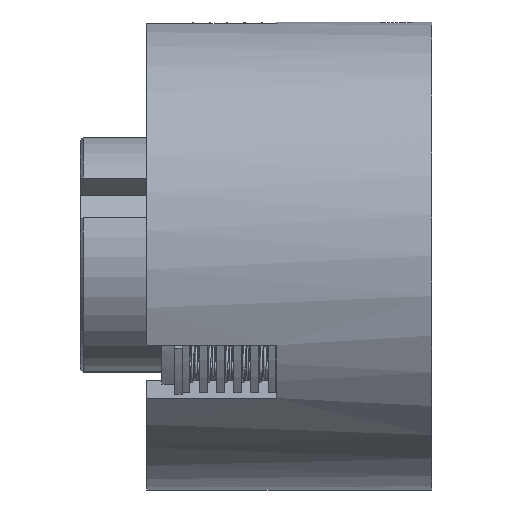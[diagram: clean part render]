
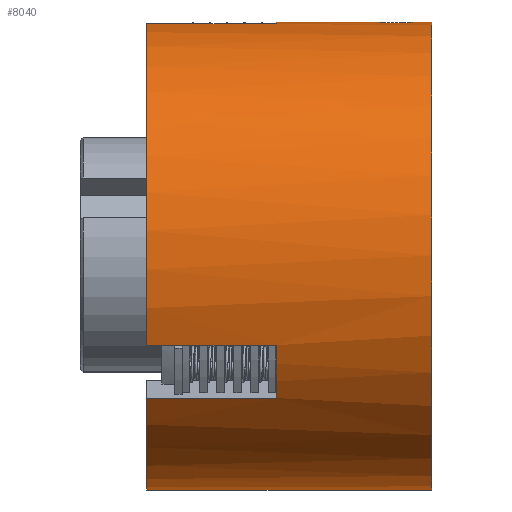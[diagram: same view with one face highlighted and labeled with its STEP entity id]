
A CAD part, top view. The second image highlights one B-rep face of the part: STEP entity #8040.
In plain terms, the highlighted cylindrical face has radius 46 mm (diameter 92 mm), a full revolution.
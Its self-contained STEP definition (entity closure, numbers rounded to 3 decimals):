
#110=B_SPLINE_CURVE_WITH_KNOTS('',3,(#17657,#17658,#17659,#17660,#17661,
#17662,#17663,#17664,#17665,#17666,#17667,#17668,#17669,#17670,#17671,#17672,
#17673,#17674),.UNSPECIFIED.,.F.,.F.,(4,2,2,2,2,2,2,2,4),(0.646,
0.807,0.969,1.13,1.291,1.453,
1.614,1.776,1.937),.UNSPECIFIED.);
#111=B_SPLINE_CURVE_WITH_KNOTS('',3,(#17675,#17676,#17677,#17678,#17679,
#17680,#17681,#17682,#17683,#17684,#17685,#17686,#17687,#17688,#17689,#17690,
#17691,#17692,#17693),.UNSPECIFIED.,.F.,.F.,(4,2,2,2,3,2,2,2,4),(1.937,
2.099,2.26,2.422,2.583,2.744,
2.906,3.067,3.229),.UNSPECIFIED.);
#383=FACE_BOUND('',#1837,.T.);
#840=CIRCLE('',#8886,46.);
#841=CIRCLE('',#8887,46.);
#843=CIRCLE('',#8889,46.);
#846=CIRCLE('',#8897,46.);
#847=CIRCLE('',#8899,46.);
#848=CIRCLE('',#8900,46.);
#850=CIRCLE('',#8905,46.);
#852=CIRCLE('',#8911,46.);
#853=CIRCLE('',#8912,46.);
#1025=CYLINDRICAL_SURFACE('',#8923,46.);
#1357=FACE_OUTER_BOUND('',#1836,.T.);
#1836=EDGE_LOOP('',(#6970,#6971,#6972,#6973,#6974,#6975,#6976,#6977,#6978,
#6979,#6980,#6981,#6982,#6983,#6984,#6985,#6986));
#1837=EDGE_LOOP('',(#6987,#6988));
#2161=LINE('',#13515,#2751);
#2357=LINE('',#17733,#2947);
#2362=LINE('',#17742,#2952);
#2369=LINE('',#17754,#2959);
#2376=LINE('',#17784,#2966);
#2377=LINE('',#17787,#2967);
#2384=LINE('',#17825,#2974);
#2751=VECTOR('',#9914,10.);
#2947=VECTOR('',#10926,10.);
#2952=VECTOR('',#10933,10.);
#2959=VECTOR('',#10942,10.);
#2966=VECTOR('',#10983,10.);
#2967=VECTOR('',#10986,10.);
#2974=VECTOR('',#11035,46.);
#3437=VERTEX_POINT('',#13512);
#3438=VERTEX_POINT('',#13514);
#3739=VERTEX_POINT('',#17655);
#3740=VERTEX_POINT('',#17656);
#3752=VERTEX_POINT('',#17730);
#3753=VERTEX_POINT('',#17732);
#3755=VERTEX_POINT('',#17739);
#3756=VERTEX_POINT('',#17741);
#3759=VERTEX_POINT('',#17751);
#3760=VERTEX_POINT('',#17753);
#3761=VERTEX_POINT('',#17758);
#3762=VERTEX_POINT('',#17760);
#3765=VERTEX_POINT('',#17776);
#3766=VERTEX_POINT('',#17780);
#3767=VERTEX_POINT('',#17786);
#3770=VERTEX_POINT('',#17802);
#3771=VERTEX_POINT('',#17803);
#4361=EDGE_CURVE('',#3438,#3437,#2161,.T.);
#4816=EDGE_CURVE('',#3739,#3740,#110,.T.);
#4817=EDGE_CURVE('',#3740,#3739,#111,.T.);
#4836=EDGE_CURVE('',#3753,#3752,#2357,.T.);
#4841=EDGE_CURVE('',#3756,#3755,#2362,.T.);
#4848=EDGE_CURVE('',#3760,#3759,#2369,.T.);
#4850=EDGE_CURVE('',#3755,#3760,#840,.T.);
#4852=EDGE_CURVE('',#3762,#3761,#841,.T.);
#4855=EDGE_CURVE('',#3752,#3438,#843,.T.);
#4860=EDGE_CURVE('',#3765,#3756,#846,.T.);
#4862=EDGE_CURVE('',#3766,#3753,#847,.T.);
#4863=EDGE_CURVE('',#3759,#3766,#848,.T.);
#4864=EDGE_CURVE('',#3761,#3765,#2376,.T.);
#4865=EDGE_CURVE('',#3767,#3762,#2377,.T.);
#4871=EDGE_CURVE('',#3437,#3767,#850,.T.);
#4873=EDGE_CURVE('',#3770,#3771,#852,.T.);
#4874=EDGE_CURVE('',#3771,#3770,#853,.T.);
#4883=EDGE_CURVE('',#3771,#3766,#2384,.T.);
#6970=ORIENTED_EDGE('',*,*,#4873,.F.);
#6971=ORIENTED_EDGE('',*,*,#4874,.F.);
#6972=ORIENTED_EDGE('',*,*,#4883,.T.);
#6973=ORIENTED_EDGE('',*,*,#4862,.T.);
#6974=ORIENTED_EDGE('',*,*,#4836,.T.);
#6975=ORIENTED_EDGE('',*,*,#4855,.T.);
#6976=ORIENTED_EDGE('',*,*,#4361,.T.);
#6977=ORIENTED_EDGE('',*,*,#4871,.T.);
#6978=ORIENTED_EDGE('',*,*,#4865,.T.);
#6979=ORIENTED_EDGE('',*,*,#4852,.T.);
#6980=ORIENTED_EDGE('',*,*,#4864,.T.);
#6981=ORIENTED_EDGE('',*,*,#4860,.T.);
#6982=ORIENTED_EDGE('',*,*,#4841,.T.);
#6983=ORIENTED_EDGE('',*,*,#4850,.T.);
#6984=ORIENTED_EDGE('',*,*,#4848,.T.);
#6985=ORIENTED_EDGE('',*,*,#4863,.T.);
#6986=ORIENTED_EDGE('',*,*,#4883,.F.);
#6987=ORIENTED_EDGE('',*,*,#4816,.T.);
#6988=ORIENTED_EDGE('',*,*,#4817,.T.);
#8040=ADVANCED_FACE('',(#1357,#383),#1025,.T.);
#8886=AXIS2_PLACEMENT_3D('',#17757,#10946,#10947);
#8887=AXIS2_PLACEMENT_3D('',#17761,#10949,#10950);
#8889=AXIS2_PLACEMENT_3D('',#17765,#10954,#10955);
#8897=AXIS2_PLACEMENT_3D('',#17777,#10972,#10973);
#8899=AXIS2_PLACEMENT_3D('',#17781,#10977,#10978);
#8900=AXIS2_PLACEMENT_3D('',#17782,#10979,#10980);
#8905=AXIS2_PLACEMENT_3D('',#17796,#10995,#10996);
#8911=AXIS2_PLACEMENT_3D('',#17804,#11007,#11008);
#8912=AXIS2_PLACEMENT_3D('',#17805,#11009,#11010);
#8923=AXIS2_PLACEMENT_3D('',#17824,#11033,#11034);
#9914=DIRECTION('',(-1.,0.,0.));
#10926=DIRECTION('',(1.,0.,0.));
#10933=DIRECTION('',(1.,0.,0.));
#10942=DIRECTION('',(-1.,0.,0.));
#10946=DIRECTION('center_axis',(1.,0.,0.));
#10947=DIRECTION('ref_axis',(0.,1.,0.));
#10949=DIRECTION('center_axis',(1.,0.,0.));
#10950=DIRECTION('ref_axis',(0.,1.,0.));
#10954=DIRECTION('center_axis',(1.,0.,0.));
#10955=DIRECTION('ref_axis',(0.,1.,0.));
#10972=DIRECTION('center_axis',(1.,0.,0.));
#10973=DIRECTION('ref_axis',(0.,1.,0.));
#10977=DIRECTION('center_axis',(1.,0.,0.));
#10978=DIRECTION('ref_axis',(0.,1.,0.));
#10979=DIRECTION('center_axis',(1.,0.,0.));
#10980=DIRECTION('ref_axis',(0.,1.,0.));
#10983=DIRECTION('',(-1.,0.,0.));
#10986=DIRECTION('',(1.,0.,0.));
#10995=DIRECTION('center_axis',(1.,0.,0.));
#10996=DIRECTION('ref_axis',(0.,1.,0.));
#11007=DIRECTION('center_axis',(1.,0.,0.));
#11008=DIRECTION('ref_axis',(0.,1.,0.));
#11009=DIRECTION('center_axis',(1.,0.,0.));
#11010=DIRECTION('ref_axis',(0.,1.,0.));
#11033=DIRECTION('center_axis',(1.,0.,0.));
#11034=DIRECTION('ref_axis',(0.,1.,0.));
#11035=DIRECTION('',(-1.,0.,0.));
#13512=CARTESIAN_POINT('',(-56.,-17.607,-42.497));
#13514=CARTESIAN_POINT('',(-30.5,-17.607,-42.497));
#13515=CARTESIAN_POINT('',(-28.,-17.607,-42.497));
#17655=CARTESIAN_POINT('',(-11.283,46.,0.));
#17656=CARTESIAN_POINT('',(-2.717,46.,0.));
#17657=CARTESIAN_POINT('Ctrl Pts',(-11.283,46.,0.));
#17658=CARTESIAN_POINT('Ctrl Pts',(-11.283,46.,-0.538));
#17659=CARTESIAN_POINT('Ctrl Pts',(-11.175,45.99,-1.112));
#17660=CARTESIAN_POINT('Ctrl Pts',(-10.738,45.952,-2.167));
#17661=CARTESIAN_POINT('Ctrl Pts',(-10.409,45.925,-2.648));
#17662=CARTESIAN_POINT('Ctrl Pts',(-9.648,45.875,-3.409));
#17663=CARTESIAN_POINT('Ctrl Pts',(-9.167,45.848,-3.738));
#17664=CARTESIAN_POINT('Ctrl Pts',(-8.112,45.811,-4.175));
#17665=CARTESIAN_POINT('Ctrl Pts',(-7.538,45.8,-4.283));
#17666=CARTESIAN_POINT('Ctrl Pts',(-6.462,45.8,-4.283));
#17667=CARTESIAN_POINT('Ctrl Pts',(-5.888,45.811,-4.175));
#17668=CARTESIAN_POINT('Ctrl Pts',(-4.833,45.848,-3.738));
#17669=CARTESIAN_POINT('Ctrl Pts',(-4.352,45.875,-3.409));
#17670=CARTESIAN_POINT('Ctrl Pts',(-3.591,45.925,-2.648));
#17671=CARTESIAN_POINT('Ctrl Pts',(-3.262,45.952,-2.167));
#17672=CARTESIAN_POINT('Ctrl Pts',(-2.825,45.99,-1.112));
#17673=CARTESIAN_POINT('Ctrl Pts',(-2.717,46.,-0.538));
#17674=CARTESIAN_POINT('Ctrl Pts',(-2.717,46.,0.));
#17675=CARTESIAN_POINT('Ctrl Pts',(-2.717,46.,0.));
#17676=CARTESIAN_POINT('Ctrl Pts',(-2.717,46.,0.538));
#17677=CARTESIAN_POINT('Ctrl Pts',(-2.825,45.99,1.112));
#17678=CARTESIAN_POINT('Ctrl Pts',(-3.262,45.952,2.167));
#17679=CARTESIAN_POINT('Ctrl Pts',(-3.591,45.925,2.648));
#17680=CARTESIAN_POINT('Ctrl Pts',(-4.352,45.875,3.409));
#17681=CARTESIAN_POINT('Ctrl Pts',(-4.833,45.848,3.738));
#17682=CARTESIAN_POINT('Ctrl Pts',(-5.888,45.811,4.175));
#17683=CARTESIAN_POINT('Ctrl Pts',(-6.462,45.8,4.283));
#17684=CARTESIAN_POINT('Ctrl Pts',(-7.,45.8,4.283));
#17685=CARTESIAN_POINT('Ctrl Pts',(-7.538,45.8,4.283));
#17686=CARTESIAN_POINT('Ctrl Pts',(-8.112,45.811,4.175));
#17687=CARTESIAN_POINT('Ctrl Pts',(-9.167,45.848,3.738));
#17688=CARTESIAN_POINT('Ctrl Pts',(-9.648,45.875,3.409));
#17689=CARTESIAN_POINT('Ctrl Pts',(-10.409,45.925,2.648));
#17690=CARTESIAN_POINT('Ctrl Pts',(-10.738,45.952,2.167));
#17691=CARTESIAN_POINT('Ctrl Pts',(-11.175,45.99,1.112));
#17692=CARTESIAN_POINT('Ctrl Pts',(-11.283,46.,0.538));
#17693=CARTESIAN_POINT('Ctrl Pts',(-11.283,46.,0.));
#17730=CARTESIAN_POINT('',(-30.5,-28.,-36.497));
#17732=CARTESIAN_POINT('',(-56.,-28.,-36.497));
#17733=CARTESIAN_POINT('',(-28.,-28.,-36.497));
#17739=CARTESIAN_POINT('',(-30.5,-17.607,42.497));
#17741=CARTESIAN_POINT('',(-56.,-17.607,42.497));
#17742=CARTESIAN_POINT('',(-28.,-17.607,42.497));
#17751=CARTESIAN_POINT('',(-56.,-28.,36.497));
#17753=CARTESIAN_POINT('',(-30.5,-28.,36.497));
#17754=CARTESIAN_POINT('',(-28.,-28.,36.497));
#17757=CARTESIAN_POINT('Origin',(-30.5,0.,0.));
#17758=CARTESIAN_POINT('',(-30.5,45.607,6.));
#17760=CARTESIAN_POINT('',(-30.5,45.607,-6.));
#17761=CARTESIAN_POINT('Origin',(-30.5,0.,0.));
#17765=CARTESIAN_POINT('Origin',(-30.5,0.,0.));
#17776=CARTESIAN_POINT('',(-56.,45.607,6.));
#17777=CARTESIAN_POINT('Origin',(-56.,0.,0.));
#17780=CARTESIAN_POINT('',(-56.,-46.,0.));
#17781=CARTESIAN_POINT('Origin',(-56.,0.,0.));
#17782=CARTESIAN_POINT('Origin',(-56.,0.,0.));
#17784=CARTESIAN_POINT('',(-28.,45.607,6.));
#17786=CARTESIAN_POINT('',(-56.,45.607,-6.));
#17787=CARTESIAN_POINT('',(-28.,45.607,-6.));
#17796=CARTESIAN_POINT('Origin',(-56.,0.,0.));
#17802=CARTESIAN_POINT('',(0.,46.,0.));
#17803=CARTESIAN_POINT('',(0.,-46.,0.));
#17804=CARTESIAN_POINT('Origin',(0.,0.,0.));
#17805=CARTESIAN_POINT('Origin',(0.,0.,0.));
#17824=CARTESIAN_POINT('Origin',(-28.,0.,0.));
#17825=CARTESIAN_POINT('',(-28.,-46.,0.));
